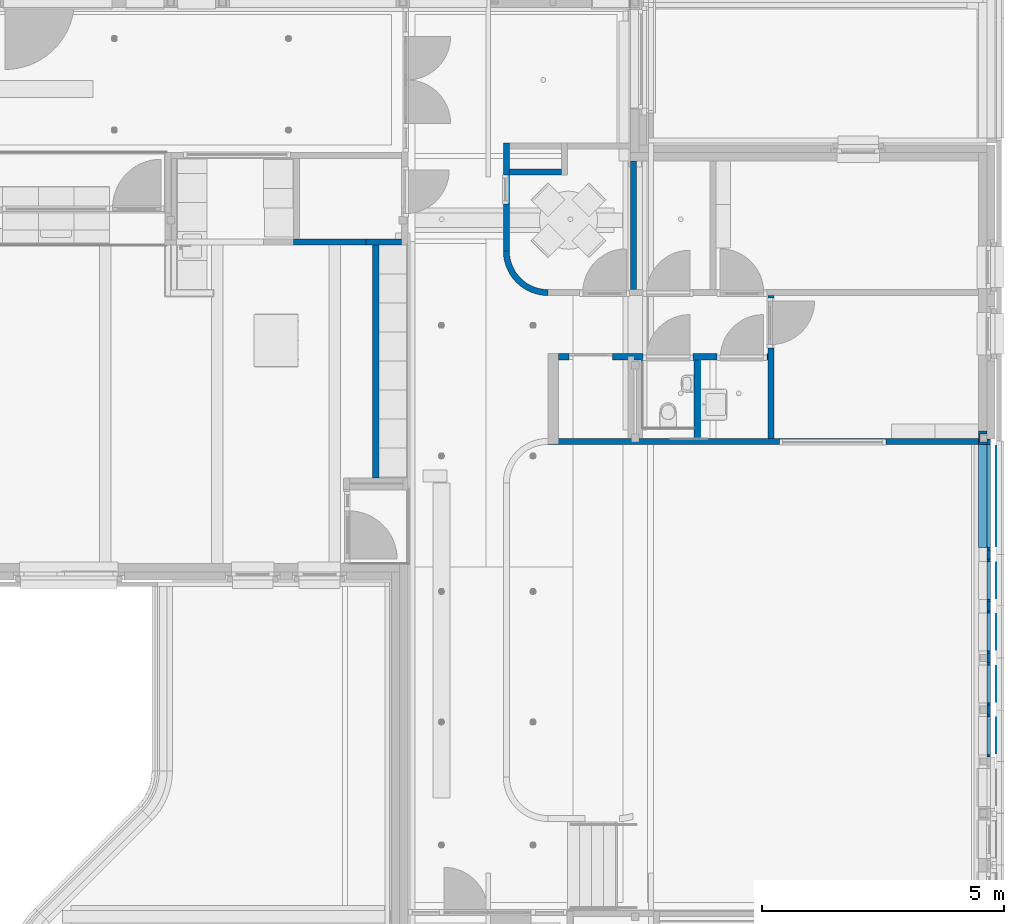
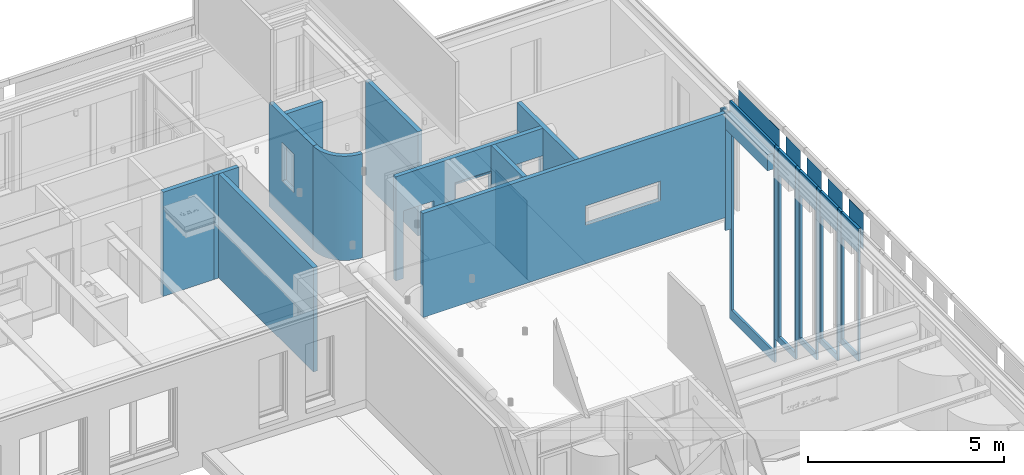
# One storey, part 56 of 128: 31 walls, 14 openings.
"""IFC2X3 building model written with IfcOpenShell, lengths in millimetres."""

from ifc_helpers import new_model, entity, si_unit, converted_unit, derived_unit, direction, frame, frame_2d, origin, origin_2d_with_axis, place, context, subcontext, project, spatial, polyline, circle_curve, parameter, trimmed, segment, composite_curve, rectangle, outline, extrude, material, layer, layer_set, layer_usage, type_object, element, save


model = new_model("IFC2X3")

# Units and contexts
model_context = context("Model", 3, precision=0.01, world=origin(), true_north=direction((6.123031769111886e-17, 1.0)))
body_context = subcontext(model_context, "Body", "Model", "MODEL_VIEW")
ifc_project = project(units=[si_unit("LENGTHUNIT", "METRE", prefix="MILLI"), si_unit("AREAUNIT", "SQUARE_METRE"), si_unit("VOLUMEUNIT", "CUBIC_METRE"), converted_unit("PLANEANGLEUNIT", "DEGREE", entity("IfcRatioMeasure", 0.017453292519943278), si_unit("PLANEANGLEUNIT", "RADIAN"), dimensions=[0, 0, 0, 0, 0, 0, 0]), si_unit("MASSUNIT", "GRAM", prefix="KILO"), derived_unit("MASSDENSITYUNIT", [(si_unit("MASSUNIT", "GRAM", prefix="KILO"), 1), (si_unit("LENGTHUNIT", "METRE"), -3)]), derived_unit("IONCONCENTRATIONUNIT", [(si_unit("MASSUNIT", "GRAM", prefix="KILO"), 1), (si_unit("LENGTHUNIT", "METRE"), -3)]), derived_unit("MOMENTOFINERTIAUNIT", [(si_unit("LENGTHUNIT", "METRE"), 4)]), si_unit("TIMEUNIT", "SECOND"), si_unit("FREQUENCYUNIT", "HERTZ"), si_unit("THERMODYNAMICTEMPERATUREUNIT", "DEGREE_CELSIUS"), derived_unit("THERMALTRANSMITTANCEUNIT", [(si_unit("MASSUNIT", "GRAM", prefix="KILO"), 1), (si_unit("THERMODYNAMICTEMPERATUREUNIT", "KELVIN"), -1), (si_unit("TIMEUNIT", "SECOND"), -3)]), derived_unit("THERMALCONDUCTANCEUNIT", [(si_unit("MASSUNIT", "GRAM", prefix="KILO"), 1), (si_unit("THERMODYNAMICTEMPERATUREUNIT", "KELVIN"), -1), (si_unit("TIMEUNIT", "SECOND"), -3), (si_unit("LENGTHUNIT", "METRE"), 1)]), derived_unit("VOLUMETRICFLOWRATEUNIT", [(si_unit("LENGTHUNIT", "METRE"), 3), (si_unit("TIMEUNIT", "SECOND"), -1)]), derived_unit("MASSFLOWRATEUNIT", [(si_unit("MASSUNIT", "GRAM", prefix="KILO"), 1), (si_unit("TIMEUNIT", "SECOND"), -1)]), derived_unit("ROTATIONALFREQUENCYUNIT", [(si_unit("TIMEUNIT", "SECOND"), -1)]), si_unit("ELECTRICCURRENTUNIT", "AMPERE"), si_unit("ELECTRICVOLTAGEUNIT", "VOLT"), si_unit("POWERUNIT", "WATT"), si_unit("FORCEUNIT", "NEWTON", prefix="KILO"), si_unit("ILLUMINANCEUNIT", "LUX"), si_unit("LUMINOUSFLUXUNIT", "LUMEN"), si_unit("LUMINOUSINTENSITYUNIT", "CANDELA"), derived_unit("USERDEFINED", [(si_unit("MASSUNIT", "GRAM", prefix="KILO"), -1), (si_unit("LENGTHUNIT", "METRE"), -2), (si_unit("TIMEUNIT", "SECOND"), 3), (si_unit("LUMINOUSFLUXUNIT", "LUMEN"), 1)]), derived_unit("USERDEFINED", [(si_unit("MASSUNIT", "GRAM", prefix="KILO"), 1), (si_unit("TIMEUNIT", "SECOND"), -3), (si_unit("LENGTHUNIT", "METRE"), 3), (si_unit("ELECTRICCURRENTUNIT", "AMPERE"), -2)]), derived_unit("SOUNDPOWERUNIT", [(si_unit("MASSUNIT", "GRAM", prefix="KILO"), 1), (si_unit("TIMEUNIT", "SECOND"), -3), (si_unit("LENGTHUNIT", "METRE"), 2)]), derived_unit("SOUNDPRESSUREUNIT", [(si_unit("MASSUNIT", "GRAM", prefix="KILO"), 1), (si_unit("LENGTHUNIT", "METRE"), -1), (si_unit("TIMEUNIT", "SECOND"), -2)]), derived_unit("LINEARVELOCITYUNIT", [(si_unit("LENGTHUNIT", "METRE"), 1), (si_unit("TIMEUNIT", "SECOND"), -1)]), si_unit("PRESSUREUNIT", "PASCAL"), derived_unit("USERDEFINED", [(si_unit("MASSUNIT", "GRAM", prefix="KILO"), 1), (si_unit("LENGTHUNIT", "METRE"), -2), (si_unit("TIMEUNIT", "SECOND"), -2)]), derived_unit("LINEARFORCEUNIT", [(si_unit("MASSUNIT", "GRAM", prefix="KILO"), 1), (si_unit("TIMEUNIT", "SECOND"), -2)]), derived_unit("PLANARFORCEUNIT", [(si_unit("MASSUNIT", "GRAM", prefix="KILO"), 1), (si_unit("LENGTHUNIT", "METRE"), -1), (si_unit("TIMEUNIT", "SECOND"), -2)]), derived_unit("SPECIFICHEATCAPACITYUNIT", [(si_unit("THERMODYNAMICTEMPERATUREUNIT", "KELVIN"), -1), (si_unit("LENGTHUNIT", "METRE"), 2), (si_unit("TIMEUNIT", "SECOND"), -2)]), derived_unit("HEATINGVALUEUNIT", [(si_unit("LENGTHUNIT", "METRE"), 2), (si_unit("TIMEUNIT", "SECOND"), -2)]), derived_unit("VAPORPERMEABILITYUNIT", [(si_unit("LENGTHUNIT", "METRE"), -1), (si_unit("TIMEUNIT", "SECOND"), 1)]), derived_unit("DYNAMICVISCOSITYUNIT", [(si_unit("MASSUNIT", "GRAM", prefix="KILO"), 1), (si_unit("TIMEUNIT", "SECOND"), -1), (si_unit("LENGTHUNIT", "METRE"), -1)]), derived_unit("THERMALEXPANSIONCOEFFICIENTUNIT", [(si_unit("THERMODYNAMICTEMPERATUREUNIT", "KELVIN"), -1)]), derived_unit("MODULUSOFELASTICITYUNIT", [(si_unit("MASSUNIT", "GRAM", prefix="KILO"), 1), (si_unit("LENGTHUNIT", "METRE"), -1), (si_unit("TIMEUNIT", "SECOND"), -2)]), derived_unit("ISOTHERMALMOISTURECAPACITYUNIT", [(si_unit("LENGTHUNIT", "METRE"), 3), (si_unit("MASSUNIT", "GRAM", prefix="KILO"), -1)]), derived_unit("MOISTUREDIFFUSIVITYUNIT", [(si_unit("TIMEUNIT", "SECOND"), -1), (si_unit("LENGTHUNIT", "METRE"), 2)])], contexts=[model_context])

# Site, building, storey
site_placement = place(None, frame((0.0, 300.0, 0.0)))
site = spatial("IfcSite", under=ifc_project, at=site_placement, Name="<Kadastrale nummers>", CompositionType="ELEMENT")
building_placement = place(site_placement, origin())
building = spatial("IfcBuilding", under=site, at=building_placement, CompositionType="ELEMENT")
storey_placement = place(building_placement, frame((0.0, 0.0, 3560.0000331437)))
storey = spatial("IfcBuildingStorey", under=building, at=storey_placement, Name="01 eerste verdieping", CompositionType="ELEMENT", Elevation=3560.0000331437)

# Wall, opening
ifc_material_1 = material(Name="ISR_Gips")
ifc_layer_1 = layer(ifc_material_1, 1.0)
ifc_material_2 = material(Name="ISR_Binnenwand")
ifc_layer_2 = layer(ifc_material_2, 123.0)
ifc_layer_3 = layer(ifc_material_1, 1.0)
ifc_layer_set_1 = layer_set([ifc_layer_1, ifc_layer_2, ifc_layer_3], Name="Basic Wall:22_DAT_binnenwand_125")
ifc_layer_usage_1 = layer_usage(ifc_layer_set_1, "AXIS2", "NEGATIVE", 62.50000000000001)
wall_type_1 = type_object("IfcWallType", Name="Basic Wall:22_DAT_binnenwand_125", PredefinedType="STANDARD", material=ifc_layer_set_1)
wall_1_placement = place(storey_placement, frame((39600.0, 40727.5000000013, 90.00000187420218)))
wall_1 = element("IfcWallStandardCase", 1, at=wall_1_placement, inside=storey, type_object=wall_type_1, material=ifc_layer_usage_1, Name="Basic Wall:22_DAT_binnenwand_125", ObjectType="Basic Wall:22_DAT_binnenwand_125", context=body_context, shape_type="SweptSolid", body=[
    extrude(rectangle(XDim=8899.999999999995, YDim=125.00000000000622, at=frame_2d((4449.999999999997, -2.1032064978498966e-12), x_axis=(-1.0, 0.0))), origin(), (0.0, 0.0, 1.0), 3239.9999999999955),
])
opening_1_placement = place(wall_1_placement, origin())
element("IfcOpeningElement", 2, at=opening_1_placement, cuts=wall_1, Name="Basic Wall:22_DAT_binnenwand_125", ObjectType="Opening", context=body_context, shape_type="SweptSolid", body=[
    extrude(rectangle(XDim=600.0000000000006, YDim=2205.000000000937, at=frame_2d((-2.8421709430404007e-13, 0.0), x_axis=(1.0, 0.0))), frame((5882.499999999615, -214.90000000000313, 1500.0), z_axis=(0.0, 1.0, 0.0), x_axis=(0.0, 0.0, 1.0)), (0.0, 0.0, 1.0), 429.79999999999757),
])

# Wall
wall_2_placement = place(storey_placement, frame((39875.0, 46297.49999999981, 90.00000187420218), z_axis=(0.0, 0.0, 1.0), x_axis=(-1.0, 0.0, 0.0)))
element("IfcWallStandardCase", 3, at=wall_2_placement, inside=storey, type_object=wall_type_1, material=ifc_layer_usage_1, Name="Basic Wall:22_DAT_binnenwand_125", ObjectType="Basic Wall:22_DAT_binnenwand_125", context=body_context, shape_type="SweptSolid", body=[
    extrude(rectangle(XDim=1075.0000000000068, YDim=125.00000000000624, at=frame_2d((537.5000000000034, -2.7071678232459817e-12), x_axis=(-1.0, 0.0))), origin(), (0.0, 0.0, 1.0), 3239.9999999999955),
])

# Wall, opening
wall_3_placement = place(storey_placement, frame((38737.500000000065, 46900.0, 90.00000187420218), z_axis=(0.0, 0.0, 1.0), x_axis=(0.0, -1.0, 0.0)))
wall_3 = element("IfcWallStandardCase", 4, at=wall_3_placement, inside=storey, type_object=wall_type_1, material=ifc_layer_usage_1, Name="Basic Wall:22_DAT_binnenwand_125", ObjectType="Basic Wall:22_DAT_binnenwand_125", context=body_context, shape_type="SweptSolid", body=[
    extrude(rectangle(XDim=2233.0000000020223, YDim=125.0000000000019, at=frame_2d((1116.5000000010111, -1.751487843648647e-12), x_axis=(-1.0, 0.0))), origin(), (0.0, 0.0, 1.0), 3239.9999999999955),
])
opening_2_placement = place(wall_3_placement, origin())
element("IfcOpeningElement", 5, at=opening_2_placement, cuts=wall_3, Name="Basic Wall:22_DAT_binnenwand_125", ObjectType="Opening", context=body_context, shape_type="SweptSolid", body=[
    extrude(rectangle(XDim=1190.0000000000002, YDim=600.0000000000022, at=origin_2d_with_axis()), frame((965.0, -214.90000000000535, 1795.0), z_axis=(0.0, 1.0, 0.0), x_axis=(0.0, 0.0, 1.0)), (0.0, 0.0, 1.0), 429.8000000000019),
])

# Wall
wall_4_placement = place(storey_placement, frame((41362.500000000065, 46525.0, 90.00000187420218), z_axis=(0.0, 0.0, 1.0), x_axis=(0.0, -1.0, 0.0)))
element("IfcWallStandardCase", 6, at=wall_4_placement, inside=storey, type_object=wall_type_1, material=ifc_layer_usage_1, Name="Basic Wall:22_DAT_binnenwand_125", ObjectType="Basic Wall:22_DAT_binnenwand_125", context=body_context, shape_type="SweptSolid", body=[
    extrude(rectangle(XDim=2660.00000000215, YDim=125.00000000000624, at=frame_2d((1330.000000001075, 0.0), x_axis=(-1.0, 0.0))), origin(), (0.0, 0.0, 1.0), 3239.9999999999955),
])

# Wall, opening
wall_5_placement = place(storey_placement, frame((44207.50000000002, 40790.0, 90.00000187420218), z_axis=(0.0, 0.0, 1.0), x_axis=(0.0, 1.0, 0.0)))
wall_5 = element("IfcWallStandardCase", 7, at=wall_5_placement, inside=storey, type_object=wall_type_1, material=ifc_layer_usage_1, Name="Basic Wall:22_DAT_binnenwand_125", ObjectType="Basic Wall:22_DAT_binnenwand_125", context=body_context, shape_type="SweptSolid", body=[
    extrude(rectangle(XDim=2949.99999999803, YDim=125.00000000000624, at=frame_2d((1474.999999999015, -1.1368683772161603e-13), x_axis=(-1.0, 0.0))), origin(), (0.0, 0.0, 1.0), 3239.9999999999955),
])
opening_3_placement = place(wall_5_placement, origin())
element("IfcOpeningElement", 8, at=opening_3_placement, cuts=wall_5, Name="Basic Wall:22_DAT_binnenwand_125", ObjectType="Opening", context=body_context, shape_type="SweptSolid", body=[
    extrude(rectangle(XDim=2390.0000000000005, YDim=1034.0000000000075, at=origin_2d_with_axis()), frame((2390.125002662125, -214.89999999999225, 1195.0), z_axis=(0.0, 1.0, 0.0), x_axis=(0.0, 0.0, 1.0)), (0.0, 0.0, 1.0), 429.79999999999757),
])

# Walls
wall_6_placement = place(storey_placement, frame((42676.49999999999, 42415.125002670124, 90.00000187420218), z_axis=(0.0, 0.0, 1.0), x_axis=(0.0, -1.0, 0.0)))
element("IfcWallStandardCase", 9, at=wall_6_placement, inside=storey, type_object=wall_type_1, material=ifc_layer_usage_1, Name="Basic Wall:22_DAT_binnenwand_125", ObjectType="Basic Wall:22_DAT_binnenwand_125", context=body_context, shape_type="SweptSolid", body=[
    extrude(rectangle(XDim=1625.1250026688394, YDim=125.00000000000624, at=frame_2d((812.5625013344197, 0.0), x_axis=(-1.0, 0.0))), origin(), (0.0, 0.0, 1.0), 3239.9999999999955),
])
ifc_layer_usage_2 = layer_usage(ifc_layer_set_1, "AXIS2", "POSITIVE", -62.50000000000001)
wall_7_placement = place(storey_placement, frame((39600.0, 43804.49999999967, 90.00000187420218)))
element("IfcWallStandardCase", 10, at=wall_7_placement, inside=storey, type_object=wall_type_1, material=ifc_layer_usage_2, Name="Basic Wall:22_DAT_binnenwand_125", ObjectType="Basic Wall:22_DAT_binnenwand_125", context=body_context, shape_type="SweptSolid", body=[
    extrude(outline(composite_curve([segment(trimmed(circle_curve(frame_2d((0.0, 862.5000000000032), x_axis=(1.0, 0.0)), 925.0000000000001), [parameter(179.99999999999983)], [parameter(269.99999999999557)], True, "PARAMETER"), True, "CONTINUOUS"), segment(polyline([(0.0, -62.49999999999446), (0.0, 62.50000000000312)]), True, "CONTINUOUS"), segment(trimmed(circle_curve(frame_2d((0.0, 862.5000000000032), x_axis=(1.0, 0.0)), 800.0), [parameter(179.99999999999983)], [parameter(269.99999999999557)], True, "PARAMETER"), False, "CONTINUOUS"), segment(polyline([(-800.0, 862.5000000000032), (-925.0, 862.5000000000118)]), True, "CONTINUOUS")], self_intersect=False)), origin(), (0.0, 0.0, 1.0), 3239.9999999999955),
])
wall_8_placement = place(storey_placement, frame((35835.0, 44852.50000000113, 90.00000187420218)))
element("IfcWallStandardCase", 11, at=wall_8_placement, inside=storey, type_object=wall_type_1, material=ifc_layer_usage_1, Name="Basic Wall:22_DAT_binnenwand_125", ObjectType="Basic Wall:22_DAT_binnenwand_125", context=body_context, shape_type="SweptSolid", body=[
    extrude(rectangle(XDim=739.9999999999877, YDim=125.00000000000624, at=frame_2d((369.99999999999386, 0.0), x_axis=(-1.0, 0.0))), origin(), (0.0, 0.0, 1.0), 3239.9999999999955),
])
wall_9_placement = place(storey_placement, frame((34337.50000000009, 44852.50000000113, 90.00000187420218)))
element("IfcWallStandardCase", 12, at=wall_9_placement, inside=storey, type_object=wall_type_1, material=ifc_layer_usage_1, Name="Basic Wall:22_DAT_binnenwand_125", ObjectType="Basic Wall:22_DAT_binnenwand_125", context=body_context, shape_type="SweptSolid", body=[
    extrude(rectangle(XDim=1497.4999999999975, YDim=125.00000000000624, at=frame_2d((748.7499999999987, 0.0), x_axis=(-1.0, 0.0))), origin(), (0.0, 0.0, 1.0), 3239.9999999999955),
])

# Wall, openings
wall_10_placement = place(storey_placement, frame((44145.0, 42477.625002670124, 90.00000187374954), z_axis=(0.0, 0.0, 1.0), x_axis=(-1.0, 0.0, 0.0)))
wall_10 = element("IfcWallStandardCase", 13, at=wall_10_placement, inside=storey, type_object=wall_type_1, material=ifc_layer_usage_1, Name="Basic Wall:22_DAT_binnenwand_125", ObjectType="Basic Wall:22_DAT_binnenwand_125", context=body_context, shape_type="SweptSolid", body=[
    extrude(rectangle(XDim=4331.000214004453, YDim=125.00000000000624, at=frame_2d((2165.5001070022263, -2.305711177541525e-12), x_axis=(-1.0, 0.0))), origin(), (0.0, 0.0, 1.0), 3240.000029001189),
])
opening_4_placement = place(wall_10_placement, origin())
element("IfcOpeningElement", 14, at=opening_4_placement, cuts=wall_10, Name="Basic Wall:22_DAT_binnenwand_125", ObjectType="Opening", context=body_context, shape_type="SweptSolid", body=[
    extrude(rectangle(XDim=2390.0000000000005, YDim=1034.0000000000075, at=frame_2d((0.0, 0.0), x_axis=(0.0, 1.0))), frame((538.0, -214.90000000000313, 1195.0), z_axis=(0.0, 1.0, 0.0), x_axis=(-1.0, 0.0, 0.0)), (0.0, 0.0, 1.0), 429.79999999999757),
])
opening_5_placement = place(wall_10_placement, origin())
element("IfcOpeningElement", 15, at=opening_5_placement, cuts=wall_10, Name="Basic Wall:22_DAT_binnenwand_125", ObjectType="Opening", context=body_context, shape_type="SweptSolid", body=[
    extrude(rectangle(XDim=2390.0000000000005, YDim=1034.0000000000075, at=frame_2d((0.0, 0.0), x_axis=(0.0, 1.0))), frame((2063.0, -214.89999999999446, 1195.0), z_axis=(0.0, 1.0, 0.0), x_axis=(-1.0, 0.0, 0.0)), (0.0, 0.0, 1.0), 429.79999999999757),
])
opening_6_placement = place(wall_10_placement, origin())
element("IfcOpeningElement", 16, at=opening_6_placement, cuts=wall_10, Name="Basic Wall:22_DAT_binnenwand_125", ObjectType="Opening", context=body_context, shape_type="SweptSolid", body=[
    extrude(rectangle(XDim=2104.999999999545, YDim=899.9999999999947, at=frame_2d((4.320099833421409e-12, 1.1289102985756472e-10), x_axis=(0.0, 1.0))), frame((3661.0002140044, 62.49999999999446, 1052.5000000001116), z_axis=(0.0, -1.0, 0.0), x_axis=(1.0, 0.0, 0.0)), (0.0, 0.0, 1.0), 125.00000000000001),
])

# Walls
wall_11_placement = place(storey_placement, frame((36037.500000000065, 39970.0, 90.00000187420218), z_axis=(0.0, 0.0, 1.0), x_axis=(0.0, 1.0, 0.0)))
element("IfcWallStandardCase", 17, at=wall_11_placement, inside=storey, type_object=wall_type_1, material=ifc_layer_usage_1, Name="Basic Wall:22_DAT_binnenwand_125", ObjectType="Basic Wall:22_DAT_binnenwand_125", context=body_context, shape_type="SweptSolid", body=[
    extrude(rectangle(XDim=4820.000000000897, YDim=124.99999999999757, at=frame_2d((2410.0000000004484, -1.0267342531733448e-12), x_axis=(-1.0, 0.0))), origin(), (0.0, 0.0, 1.0), 3239.9999999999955),
])
ifc_layer_4 = layer(ifc_material_1, 1.0)
ifc_layer_5 = layer(ifc_material_2, 23.0)
ifc_layer_6 = layer(ifc_material_1, 1.0)
ifc_layer_set_2 = layer_set([ifc_layer_4, ifc_layer_5, ifc_layer_6], Name="Basic Wall:22_DAT_binnenwand_25")
ifc_layer_usage_3 = layer_usage(ifc_layer_set_2, "AXIS2", "POSITIVE", -12.499999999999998)
wall_type_2 = type_object("IfcWallType", Name="Basic Wall:22_DAT_binnenwand_25", PredefinedType="STANDARD", material=ifc_layer_set_2)
wall_12_placement = place(storey_placement, frame((48512.499999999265, 40719.99947471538, 20.00000187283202), z_axis=(0.0, 0.0, 1.0), x_axis=(0.0, 1.0, 0.0)))
element("IfcWallStandardCase", 18, at=wall_12_placement, inside=storey, type_object=wall_type_2, material=ifc_layer_usage_3, Name="Basic Wall:22_DAT_binnenwand_25", ObjectType="Basic Wall:22_DAT_binnenwand_25", context=body_context, shape_type="SweptSolid", body=[
    extrude(rectangle(XDim=159.9999999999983, YDim=24.999999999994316, at=frame_2d((79.99999999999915, -5.666578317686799e-13), x_axis=(-1.0, 0.0))), origin(), (0.0, 0.0, 1.0), 3310.0000290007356),
])
ifc_material_3 = material(Name="STAAL_RAL 7006")
ifc_layer_7 = layer(ifc_material_3, 2.0)
ifc_layer_set_3 = layer_set([ifc_layer_7], Name="Basic Wall:21_DAT_zetwerk_2")
ifc_layer_usage_4 = layer_usage(ifc_layer_set_3, "AXIS2", "NEGATIVE", 1.000000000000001)
wall_type_3 = type_object("IfcWallType", Name="Basic Wall:21_DAT_zetwerk_2", PredefinedType="STANDARD", material=ifc_layer_set_3)
for number, where, z_axis, x_axis, name in (
    (19, (48866.0, 35012.0, 2839.9999668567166), (0.0, 0.0, 1.0), (0.0, -1.0, 0.0), "Basic Wall:21_DAT_zetwerk_2"),
    (20, (48866.0, 36082.0, 2839.9999668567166), (0.0, 0.0, 1.0), (0.0, -1.0, 0.0), "Basic Wall:21_DAT_zetwerk_2"),
    (21, (48866.0, 37152.0, 2839.9999668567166), (0.0, 0.0, 1.0), (0.0, -1.0, 0.0), "Basic Wall:21_DAT_zetwerk_2"),
    (22, (48866.0, 38222.0, 2839.9999668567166), (0.0, 0.0, 1.0), (0.0, -1.0, 0.0), "Basic Wall:21_DAT_zetwerk_2"),
):
    element("IfcWallStandardCase", number, at=place(storey_placement, frame(where, z_axis=z_axis, x_axis=x_axis)), inside=storey, type_object=wall_type_3, material=ifc_layer_usage_4, Name=name, ObjectType="Basic Wall:21_DAT_zetwerk_2", context=body_context, shape_type="SweptSolid", body=[
        extrude(rectangle(XDim=733.9999999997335, YDim=1.9999999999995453, at=frame_2d((366.99999999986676, 1.0186296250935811e-12), x_axis=(-1.0, 0.0))), origin(), (0.0, 0.0, 1.0), 1125.0000000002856),
    ])
wall_13_placement = place(storey_placement, frame((48866.0, 40632.0, 2839.9999668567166), z_axis=(0.0, 0.0, 1.0), x_axis=(0.0, -1.0, 0.0)))
element("IfcWallStandardCase", 23, at=wall_13_placement, inside=storey, type_object=wall_type_3, material=ifc_layer_usage_4, Name="Basic Wall:21_DAT_zetwerk_2", ObjectType="Basic Wall:21_DAT_zetwerk_2", context=body_context, shape_type="SweptSolid", body=[
    extrude(rectangle(XDim=2073.9999999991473, YDim=1.9999999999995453, at=frame_2d((1036.9999999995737, 0.0), x_axis=(-1.0, 0.0))), origin(), (0.0, 0.0, 1.0), 1125.0000000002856),
])

# Wall, openings
ifc_layer_8 = layer(ifc_material_1, 12.5)
ifc_layer_9 = layer(ifc_material_1, 12.5)
ifc_material_4 = material(Name="ISR_Dak_isolatie(198)")
ifc_layer_10 = layer(ifc_material_4, 140.0)
ifc_material_5 = material(Name="ISR_Multiplex")
ifc_layer_11 = layer(ifc_material_5, 10.0)
ifc_layer_set_4 = layer_set([ifc_layer_8, ifc_layer_9, ifc_layer_10, ifc_layer_11], Name="Basic Wall:21_DAT_Hekwerk 175")
ifc_layer_usage_5 = layer_usage(ifc_layer_set_4, "AXIS2", "NEGATIVE", 87.5)
wall_type_4 = type_object("IfcWallType", Name="Basic Wall:21_DAT_Hekwerk 175", PredefinedType="STANDARD", material=ifc_layer_set_4)
wall_14_placement = place(storey_placement, frame((48587.49999999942, 40879.99947471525, 800.0000018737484), z_axis=(0.0, 0.0, 1.0), x_axis=(0.0, 1.0, 0.0)))
wall_14 = element("IfcWallStandardCase", 24, at=wall_14_placement, inside=storey, type_object=wall_type_4, material=ifc_layer_usage_5, Name="Basic Wall:21_DAT_Hekwerk 175", ObjectType="Basic Wall:21_DAT_Hekwerk 175", context=body_context, shape_type="SweptSolid", body=[
    extrude(rectangle(XDim=60.00000000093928, YDim=174.99999999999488, at=frame_2d((30.00000000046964, -2.6361135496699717e-12), x_axis=(-1.0, 0.0))), origin(), (0.0, 0.0, 1.0), 2530.0000289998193),
])
opening_7_placement = place(wall_14_placement, origin())
element("IfcOpeningElement", 25, at=opening_7_placement, cuts=wall_14, Name="Basic Wall:21_DAT_Hekwerk 175", ObjectType="Opening", context=body_context, shape_type="SweptSolid", body=[
    extrude(rectangle(XDim=1929.9999999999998, YDim=880.0000000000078, at=frame_2d((5.684341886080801e-13, 0.0), x_axis=(1.0, 0.0))), frame((2072.125527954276, -239.90000000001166, 1065.0), z_axis=(0.0, 1.0, 0.0), x_axis=(0.0, 0.0, 1.0)), (0.0, 0.0, 1.0), 479.80000000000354),
])
opening_8_placement = place(wall_14_placement, origin())
element("IfcOpeningElement", 26, at=opening_8_placement, cuts=wall_14, Name="Basic Wall:21_DAT_Hekwerk 175", ObjectType="Opening", context=body_context, shape_type="SweptSolid", body=[
    extrude(rectangle(XDim=1929.9999999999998, YDim=880.0000000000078, at=frame_2d((5.684341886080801e-13, 0.0), x_axis=(1.0, 0.0))), frame((3452.1255279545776, -239.90000000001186, 1065.0), z_axis=(0.0, 1.0, 0.0), x_axis=(0.0, 0.0, 1.0)), (0.0, 0.0, 1.0), 479.80000000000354),
])

# Walls
ifc_layer_usage_6 = layer_usage(ifc_layer_set_4, "AXIS2", "POSITIVE", -87.5)
wall_15_placement = place(storey_placement, frame((48587.49999999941, 40719.99947471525, -320.00000414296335), z_axis=(0.0, 0.0, 1.0), x_axis=(0.0, -1.0, 0.0)))
element("IfcWallStandardCase", 27, at=wall_15_placement, inside=storey, type_object=wall_type_4, material=ifc_layer_usage_6, Name="Basic Wall:21_DAT_Hekwerk 175", ObjectType="Basic Wall:21_DAT_Hekwerk 175", context=body_context, shape_type="SweptSolid", body=[
    extrude(rectangle(XDim=59.99999999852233, YDim=174.99999999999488, at=frame_2d((29.999999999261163, -2.2737367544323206e-12), x_axis=(-1.0, 0.0))), origin(), (0.0, 0.0, 1.0), 3650.000035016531),
])
wall_16_placement = place(storey_placement, frame((48587.500000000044, 40660.0, 2829.999966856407), z_axis=(0.0, 0.0, 1.0), x_axis=(0.0, -1.0, 0.0)))
element("IfcWallStandardCase", 28, at=wall_16_placement, inside=storey, type_object=wall_type_4, material=ifc_layer_usage_6, Name="Basic Wall:21_DAT_Hekwerk 175", ObjectType="Basic Wall:21_DAT_Hekwerk 175", context=body_context, shape_type="SweptSolid", body=[
    extrude(rectangle(XDim=2129.9999999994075, YDim=174.99999999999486, at=frame_2d((1064.9999999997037, 0.0), x_axis=(-1.0, 0.0))), origin(), (0.0, 0.0, 1.0), 500.000064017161),
])

# Wall, opening
ifc_material_6 = material(Name="ISR_Isolatie")
ifc_layer_12 = layer(ifc_material_6, 70.0)
ifc_layer_set_5 = layer_set([ifc_layer_12], Name="Basic Wall:21_DAT_isolatie hard_74")
ifc_layer_usage_7 = layer_usage(ifc_layer_set_5, "AXIS2", "NEGATIVE", 35.0)
wall_type_5 = type_object("IfcWallType", Name="Basic Wall:21_DAT_isolatie hard_74", PredefinedType="STANDARD", material=ifc_layer_set_5)
wall_17_placement = place(storey_placement, frame((48710.0, 40780.0, -3166.6966978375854), z_axis=(0.0, 0.0, 1.0), x_axis=(0.0, -1.0, 0.0)))
wall_17 = element("IfcWallStandardCase", 29, at=wall_17_placement, inside=storey, type_object=wall_type_5, material=ifc_layer_usage_7, Name="Basic Wall:21_DAT_isolatie hard_74", ObjectType="Basic Wall:21_DAT_isolatie hard_74", context=body_context, shape_type="SweptSolid", body=[
    extrude(rectangle(XDim=2295.0000000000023, YDim=70.00000000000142, at=frame_2d((1147.5000000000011, 1.9824142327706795e-12), x_axis=(-1.0, 0.0))), origin(), (0.0, 0.0, 1.0), 6756.696699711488),
])
opening_9_placement = place(wall_17_placement, origin())
element("IfcOpeningElement", 30, at=opening_9_placement, cuts=wall_17, Name="Basic Wall:21_DAT_isolatie hard_74", ObjectType="Opening", context=body_context, shape_type="SweptSolid", body=[
    extrude(rectangle(XDim=5680.000000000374, YDim=2130.0000000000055, at=frame_2d((-2.1600499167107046e-12, 0.0), x_axis=(0.0, 1.0))), frame((1185.0, -187.3999999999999, 3156.6966646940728), z_axis=(0.0, 1.0, 0.0), x_axis=(-1.0, 0.0, 0.0)), (0.0, 0.0, 1.0), 374.80000000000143),
])

wall_18_placement = place(storey_placement, frame((48710.0, 37225.0, -1785.0), z_axis=(0.0, 0.0, 1.0), x_axis=(0.0, -1.0, 0.0)))
wall_18 = element("IfcWallStandardCase", 31, at=wall_18_placement, inside=storey, type_object=wall_type_5, material=ifc_layer_usage_7, Name="Basic Wall:21_DAT_isolatie hard_74", ObjectType="Basic Wall:21_DAT_isolatie hard_74", context=body_context, shape_type="SweptSolid", body=[
    extrude(rectangle(XDim=879.9999999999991, YDim=70.00000000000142, at=frame_2d((439.99999999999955, 7.602807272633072e-13), x_axis=(-1.0, 0.0))), origin(), (0.0, 0.0, 1.0), 5374.99999999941),
])
opening_10_placement = place(wall_18_placement, origin())
element("IfcOpeningElement", 32, at=opening_10_placement, cuts=wall_18, Name="Basic Wall:21_DAT_isolatie hard_74", ObjectType="Opening", context=body_context, shape_type="SweptSolid", body=[
    extrude(rectangle(XDim=4430.000000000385, YDim=789.999999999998, at=frame_2d((-2.1600499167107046e-12, 0.0), x_axis=(0.0, 1.0))), frame((440.0, -187.4000000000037, 2399.999964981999), z_axis=(0.0, 1.0, 0.0), x_axis=(-1.0, 0.0, 0.0)), (0.0, 0.0, 1.0), 374.80000000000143),
])

# Wall
wall_19_placement = place(storey_placement, frame((48710.0, 37415.0, -1785.0), z_axis=(0.0, 0.0, 1.0), x_axis=(0.0, -1.0, 0.0)))
element("IfcWallStandardCase", 33, at=wall_19_placement, inside=storey, type_object=wall_type_5, material=ifc_layer_usage_7, Name="Basic Wall:21_DAT_isolatie hard_74", ObjectType="Basic Wall:21_DAT_isolatie hard_74", context=body_context, shape_type="SweptSolid", body=[
    extrude(rectangle(XDim=190.0000000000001, YDim=70.00000000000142, at=frame_2d((95.00000000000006, 1.6697754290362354e-13), x_axis=(-1.0, 0.0))), origin(), (0.0, 0.0, 1.0), 5374.99999999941),
])

# Wall, opening
wall_20_placement = place(storey_placement, frame((48710.0, 38295.0, -2410.0), z_axis=(0.0, 0.0, 1.0), x_axis=(0.0, -1.0, 0.0)))
wall_20 = element("IfcWallStandardCase", 34, at=wall_20_placement, inside=storey, type_object=wall_type_5, material=ifc_layer_usage_7, Name="Basic Wall:21_DAT_isolatie hard_74", ObjectType="Basic Wall:21_DAT_isolatie hard_74", context=body_context, shape_type="SweptSolid", body=[
    extrude(rectangle(XDim=879.9999999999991, YDim=70.0000000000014, at=frame_2d((439.99999999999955, -3.5704772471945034e-12), x_axis=(-1.0, 0.0))), origin(), (0.0, 0.0, 1.0), 5999.999999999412),
])
opening_11_placement = place(wall_20_placement, origin())
element("IfcOpeningElement", 35, at=opening_11_placement, cuts=wall_20, Name="Basic Wall:21_DAT_isolatie hard_74", ObjectType="Opening", context=body_context, shape_type="SweptSolid", body=[
    extrude(rectangle(XDim=5055.00000000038, YDim=789.999999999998, at=frame_2d((-2.1600499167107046e-12, 0.0), x_axis=(0.0, 1.0))), frame((440.0, -187.40000000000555, 2712.499964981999), z_axis=(0.0, 1.0, 0.0), x_axis=(-1.0, 0.0, 0.0)), (0.0, 0.0, 1.0), 374.80000000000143),
])

# Walls
wall_21_placement = place(storey_placement, frame((48710.0, 38485.0, -2410.0), z_axis=(0.0, 0.0, 1.0), x_axis=(0.0, -1.0, 0.0)))
element("IfcWallStandardCase", 36, at=wall_21_placement, inside=storey, type_object=wall_type_5, material=ifc_layer_usage_7, Name="Basic Wall:21_DAT_isolatie hard_74", ObjectType="Basic Wall:21_DAT_isolatie hard_74", context=body_context, shape_type="SweptSolid", body=[
    extrude(rectangle(XDim=190.0000000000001, YDim=70.00000000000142, at=frame_2d((95.00000000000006, 1.6697754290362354e-13), x_axis=(-1.0, 0.0))), origin(), (0.0, 0.0, 1.0), 5999.999999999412),
])
wall_22_placement = place(storey_placement, frame((48710.0, 36345.0, -1160.0), z_axis=(0.0, 0.0, 1.0), x_axis=(0.0, -1.0, 0.0)))
element("IfcWallStandardCase", 37, at=wall_22_placement, inside=storey, type_object=wall_type_5, material=ifc_layer_usage_7, Name="Basic Wall:21_DAT_isolatie hard_74", ObjectType="Basic Wall:21_DAT_isolatie hard_74", context=body_context, shape_type="SweptSolid", body=[
    extrude(rectangle(XDim=190.0000000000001, YDim=70.00000000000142, at=frame_2d((95.00000000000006, 1.6697754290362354e-13), x_axis=(-1.0, 0.0))), origin(), (0.0, 0.0, 1.0), 4749.999999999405),
])

# Wall, opening
wall_23_placement = place(storey_placement, frame((48710.0, 36155.0, -1160.0), z_axis=(0.0, 0.0, 1.0), x_axis=(0.0, -1.0, 0.0)))
wall_23 = element("IfcWallStandardCase", 38, at=wall_23_placement, inside=storey, type_object=wall_type_5, material=ifc_layer_usage_7, Name="Basic Wall:21_DAT_isolatie hard_74", ObjectType="Basic Wall:21_DAT_isolatie hard_74", context=body_context, shape_type="SweptSolid", body=[
    extrude(rectangle(XDim=879.9999999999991, YDim=70.00000000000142, at=frame_2d((439.99999999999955, 7.602807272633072e-13), x_axis=(-1.0, 0.0))), origin(), (0.0, 0.0, 1.0), 4749.999999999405),
])
opening_12_placement = place(wall_23_placement, origin())
element("IfcOpeningElement", 39, at=opening_12_placement, cuts=wall_23, Name="Basic Wall:21_DAT_isolatie hard_74", ObjectType="Opening", context=body_context, shape_type="SweptSolid", body=[
    extrude(rectangle(XDim=3805.0000000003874, YDim=789.999999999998, at=frame_2d((-2.1600499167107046e-12, -2.2737367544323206e-13), x_axis=(0.0, 1.0))), frame((440.0, -187.40000000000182, 2087.4999649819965), z_axis=(0.0, 1.0, 0.0), x_axis=(-1.0, 0.0, 0.0)), (0.0, 0.0, 1.0), 374.80000000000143),
])

# Wall
wall_24_placement = place(storey_placement, frame((48710.0, 35275.0, -534.9999981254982), z_axis=(0.0, 0.0, 1.0), x_axis=(0.0, -1.0, 0.0)))
element("IfcWallStandardCase", 40, at=wall_24_placement, inside=storey, type_object=wall_type_5, material=ifc_layer_usage_7, Name="Basic Wall:21_DAT_isolatie hard_74", ObjectType="Basic Wall:21_DAT_isolatie hard_74", context=body_context, shape_type="SweptSolid", body=[
    extrude(rectangle(XDim=190.0000000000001, YDim=70.00000000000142, at=frame_2d((95.00000000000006, 1.6697754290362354e-13), x_axis=(-1.0, 0.0))), origin(), (0.0, 0.0, 1.0), 4124.999999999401),
])

# Wall, opening
wall_25_placement = place(storey_placement, frame((48710.0, 35085.0, -534.9999981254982), z_axis=(0.0, 0.0, 1.0), x_axis=(0.0, -1.0, 0.0)))
wall_25 = element("IfcWallStandardCase", 41, at=wall_25_placement, inside=storey, type_object=wall_type_5, material=ifc_layer_usage_7, Name="Basic Wall:21_DAT_isolatie hard_74", ObjectType="Basic Wall:21_DAT_isolatie hard_74", context=body_context, shape_type="SweptSolid", body=[
    extrude(rectangle(XDim=879.9999999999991, YDim=70.00000000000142, at=frame_2d((439.99999999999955, 7.602807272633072e-13), x_axis=(-1.0, 0.0))), origin(), (0.0, 0.0, 1.0), 4124.999999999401),
])
opening_13_placement = place(wall_25_placement, origin())
element("IfcOpeningElement", 42, at=opening_13_placement, cuts=wall_25, Name="Basic Wall:21_DAT_isolatie hard_74", ObjectType="Opening", context=body_context, shape_type="SweptSolid", body=[
    extrude(rectangle(XDim=3180.000000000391, YDim=789.999999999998, at=frame_2d((-2.1600499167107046e-12, 3.410605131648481e-13), x_axis=(0.0, 1.0))), frame((440.0, -187.4, 1774.9999649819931), z_axis=(0.0, 1.0, 0.0), x_axis=(-1.0, 0.0, 0.0)), (0.0, 0.0, 1.0), 374.80000000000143),
])

ifc_material_7 = material(Name="ISR_Tegels_grijs_150x150")
ifc_layer_13 = layer(ifc_material_7, 10.0)
ifc_layer_set_6 = layer_set([ifc_layer_13], Name="Basic Wall:43_DAT_Wandtegelwerk")
ifc_layer_usage_8 = layer_usage(ifc_layer_set_6, "AXIS2", "NEGATIVE", 5.0)
wall_type_6 = type_object("IfcWallType", Name="Basic Wall:43_DAT_Wandtegelwerk", PredefinedType="STANDARD", material=ifc_layer_set_6)
wall_26_placement = place(storey_placement, frame((42609.0, 42410.12500267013, 90.00000187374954), z_axis=(0.0, 0.0, 1.0), x_axis=(-1.0, 0.0, 0.0)))
wall_26 = element("IfcWallStandardCase", 43, at=wall_26_placement, inside=storey, type_object=wall_type_6, material=ifc_layer_usage_8, Name="Basic Wall:43_DAT_Wandtegelwerk", ObjectType="Basic Wall:43_DAT_Wandtegelwerk", context=body_context, shape_type="SweptSolid", body=[
    extrude(rectangle(XDim=1058.9999999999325, YDim=9.999999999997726, at=frame_2d((529.4999999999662, 0.0), x_axis=(1.0, 0.0))), origin(), (0.0, 0.0, 1.0), 2450.000022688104),
])
opening_14_placement = place(wall_26_placement, origin())
element("IfcOpeningElement", 44, at=opening_14_placement, cuts=wall_26, Name="Basic Wall:43_DAT_Wandtegelwerk", ObjectType="Opening", context=body_context, shape_type="SweptSolid", body=[
    extrude(rectangle(XDim=2390.0000000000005, YDim=1034.0000000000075, at=frame_2d((0.0, 0.0), x_axis=(0.0, 1.0))), frame((527.0, -157.39999999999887, 1195.0), z_axis=(0.0, 1.0, 0.0), x_axis=(-1.0, 0.0, 0.0)), (0.0, 0.0, 1.0), 314.79999999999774),
])

# Wall
ifc_layer_usage_9 = layer_usage(ifc_layer_set_6, "AXIS2", "POSITIVE", -5.0)
wall_27_placement = place(storey_placement, frame((42744.0, 40790.0, 90.00000187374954), z_axis=(0.0, 0.0, 1.0), x_axis=(0.0, 1.0, 0.0)))
element("IfcWallStandardCase", 45, at=wall_27_placement, inside=storey, type_object=wall_type_6, material=ifc_layer_usage_9, Name="Basic Wall:43_DAT_Wandtegelwerk", ObjectType="Basic Wall:43_DAT_Wandtegelwerk", context=body_context, shape_type="SweptSolid", body=[
    extrude(rectangle(XDim=1620.1250026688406, YDim=9.999999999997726, at=frame_2d((810.0625013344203, 0.0), x_axis=(-1.0, 0.0))), origin(), (0.0, 0.0, 1.0), 2450.000022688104),
])

save(model, "model.ifc")
